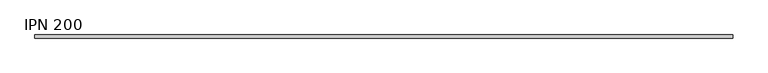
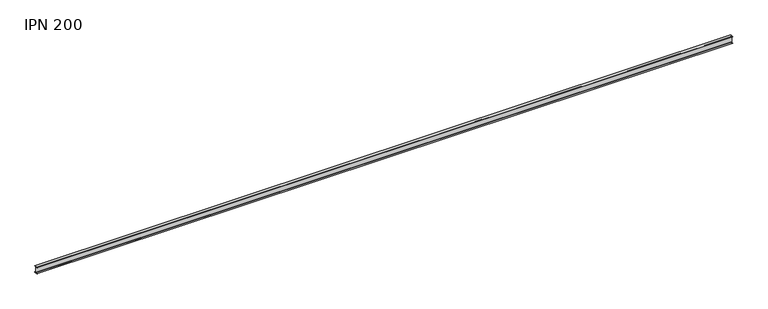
"""IFC4 building model written with IfcOpenShell, lengths in millimetres: beam geometry, IPN - Secciones en I con alas cónicas : IPN 200."""

from ifc_helpers import new_model, si_unit, point, frame, frame_2d, origin, place, context, project, spatial, polyline, circle_curve, trimmed, segment, composite_curve, outline, extrude, source, transform, mapped, element, save


def ipn_200_2b1a08ea(model_context):
    return source(origin(), model_context, "Body", "SweptSolid", [
        extrude(outline(composite_curve([segment(polyline([(45.0, 100.0), (45.0, 95.763886)]), True, "CONTINUOUS"), segment(trimmed(circle_curve(frame_2d((40.5, 95.763886)), 4.5), [point((45.0, 95.763886))], [point((41.1239153, 91.3073481))], False, "CARTESIAN"), True, "CONTINUOUS"), segment(polyline([(41.1239153, 91.3073481), (10.2101412, 86.9794198)]), True, "CONTINUOUS"), segment(trimmed(circle_curve(frame_2d((11.25, 79.5518567)), 7.5), [point((10.2101412, 86.9794198))], [point((3.75, 79.5518567))], True, "CARTESIAN"), True, "CONTINUOUS"), segment(polyline([(3.75, 79.5518567), (3.75, -79.5518567)]), True, "CONTINUOUS"), segment(trimmed(circle_curve(frame_2d((11.25, -79.5518567)), 7.5), [point((3.75, -79.5518567))], [point((10.2101412, -86.9794198))], True, "CARTESIAN"), True, "CONTINUOUS"), segment(polyline([(10.2101412, -86.9794198), (41.1239153, -91.3073481)]), True, "CONTINUOUS"), segment(trimmed(circle_curve(frame_2d((40.5, -95.763886)), 4.5), [point((41.1239153, -91.3073481))], [point((45.0, -95.763886))], False, "CARTESIAN"), True, "CONTINUOUS"), segment(polyline([(45.0, -95.763886), (45.0, -100.0), (-45.0, -100.0), (-45.0, -95.763886)]), True, "CONTINUOUS"), segment(trimmed(circle_curve(frame_2d((-40.5, -95.763886)), 4.5), [point((-45.0, -95.763886))], [point((-41.1239153, -91.3073481))], False, "CARTESIAN"), True, "CONTINUOUS"), segment(polyline([(-41.1239153, -91.3073481), (-10.2101412, -86.9794198)]), True, "CONTINUOUS"), segment(trimmed(circle_curve(frame_2d((-11.25, -79.5518567)), 7.5), [point((-10.2101412, -86.9794198))], [point((-3.75, -79.5518567))], True, "CARTESIAN"), True, "CONTINUOUS"), segment(polyline([(-3.75, -79.5518567), (-3.75, 79.5518567)]), True, "CONTINUOUS"), segment(trimmed(circle_curve(frame_2d((-11.25, 79.5518567)), 7.5), [point((-3.75, 79.5518567))], [point((-10.2101412, 86.9794198))], True, "CARTESIAN"), True, "CONTINUOUS"), segment(polyline([(-10.2101412, 86.9794198), (-41.1239153, 91.3073481)]), True, "CONTINUOUS"), segment(trimmed(circle_curve(frame_2d((-40.5, 95.763886)), 4.5), [point((-41.1239153, 91.3073481))], [point((-45.0, 95.763886))], False, "CARTESIAN"), True, "CONTINUOUS"), segment(polyline([(-45.0, 95.763886), (-45.0, 100.0), (45.0, 100.0)]), True, "CONTINUOUS")], self_intersect=False)), frame((-9745.5, 0.0, 0.0), z_axis=(1.0, 0.0, 0.0), x_axis=(0.0, 1.0, 0.0)), (0.0, 0.0, 1.0), 19783.0),
    ])


if __name__ == "__main__":
    model = new_model("IFC4")
    model_context = context("Model", 3, world=origin())
    ifc_project = project(units=[si_unit("LENGTHUNIT", "METRE", prefix="MILLI")], contexts=[model_context])
    site = spatial("IfcSite", under=ifc_project)
    building = spatial("IfcBuilding", under=site)
    placement = place(None, origin())
    ipn_200_shape = ipn_200_2b1a08ea(model_context)
    element("IfcBeam", 1, ObjectType="IPN - Secciones en I con alas cónicas : IPN 200", at=placement, inside=building, context=model_context, shape_type="MappedRepresentation", body=[
        mapped(ipn_200_shape, transform((0.0, 0.0, 0.0), x_axis=(1.0, 0.0, 0.0), y_axis=(0.0, 1.0, 0.0), z_axis=(0.0, 0.0, 1.0))),
    ])
    save(model, "model.ifc")
